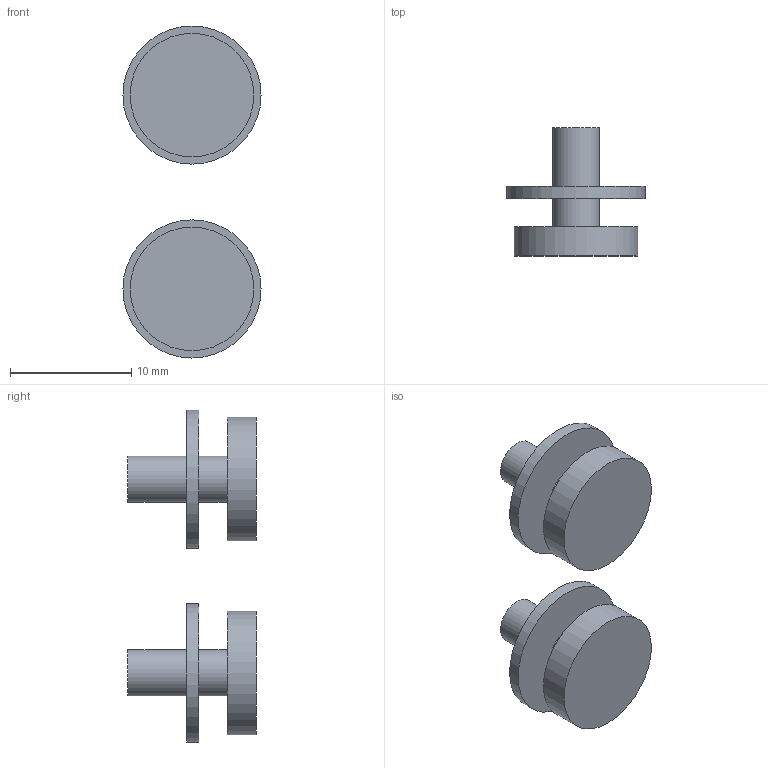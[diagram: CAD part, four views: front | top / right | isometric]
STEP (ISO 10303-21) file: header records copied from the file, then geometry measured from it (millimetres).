
FILE_DESCRIPTION(('Open CASCADE Model'),'2;1');
FILE_NAME('AETHER KEYNODE V1 round actuators','2026-10-12T13:28:42',( 'Author'),('Open CASCADE'),'Open CASCADE STEP processor 7.9', 'build123d','Unknown');
FILE_SCHEMA(('AUTOMOTIVE_DESIGN { 1 0 10303 214 1 1 1 1 }'));
Length unit declared in the file: millimetre
Products named in the file (1): AETHER KEYNODE V1 round actuators
Bounding box: 11.4 x 10.6 x 27.4 mm (x, y, z)
Volume: 759.7 mm3; surface area: 1087.1 mm2
Topology: 2 solids, 2 shells, 18 faces, 24 edges, 16 vertices
Faces by surface type: plane 10, cylinder 8
Full cylindrical faces by diameter (mm): 3.8 x4, 10.2 x2, 11.4 x2
Entity records: 704 total; most frequent: DIRECTION 126, CARTESIAN_POINT 107, ORIENTED_EDGE 48, PCURVE 48, DEFINITIONAL_REPRESENTATION 48, LINE 40, VECTOR 40, AXIS2_PLACEMENT_3D 35
